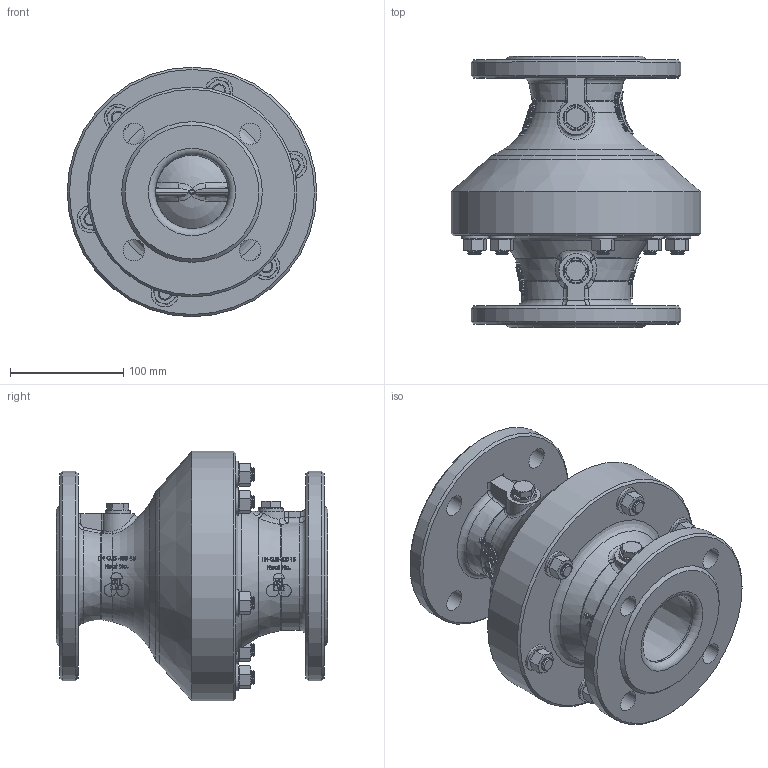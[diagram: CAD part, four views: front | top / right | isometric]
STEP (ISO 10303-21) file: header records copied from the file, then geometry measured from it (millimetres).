
FILE_DESCRIPTION(/* description */ ('PSA Hydro-Stop DN65 PN16'),/* implementation_level */ '2;1');
FILE_NAME(/* name */ 'PSA_Hydro-Stop_DN65',/* time_stamp */ '2024-10-08T16:49:20+02:00',/* author */ ('Christin-Michelle Fremgen'),/* organization */ ('PSA Wasserarmaturen GmbH'),/* preprocessor_version */ 'ST-DEVELOPER v18.104',/* originating_system */ 'Solid Edge',/* authorisation */ 'Unknown');
FILE_SCHEMA (('AUTOMOTIVE_DESIGN {1 0 10303 214 3 1 1}'));
Products named in the file (1): PSA_Hydro-Stop_DN65
Bounding box: 220 x 239 x 220 mm (x, y, z)
Volume: 3668299.6 mm3; surface area: 325703 mm2
Topology: 1 solids, 56 shells, 1846 faces, 4648 edges, 2969 vertices
Faces by surface type: plane 647, bspline 475, cone 407, cylinder 200, torus 101, sphere 16
Full cylindrical faces by diameter (mm): 10.072 x2, 10.106 x16, 10.2 x18, 12 x62, 13 x6, 14 x6, 14.95 x1, 16.662 x2, 18 x8, 19 x8, 22 x2, 23 x2, 24 x6, 65 x1, 65.4 x1, 185 x2, 220 x1
Entity records: 80009 total; most frequent: CARTESIAN_POINT 29539, ORIENTED_EDGE 7986, DIRECTION 6272, EDGE_CURVE 3993, VERTEX_POINT 2788, AXIS2_PLACEMENT_3D 2543, FACE_BOUND 2495, EDGE_LOOP 2493
